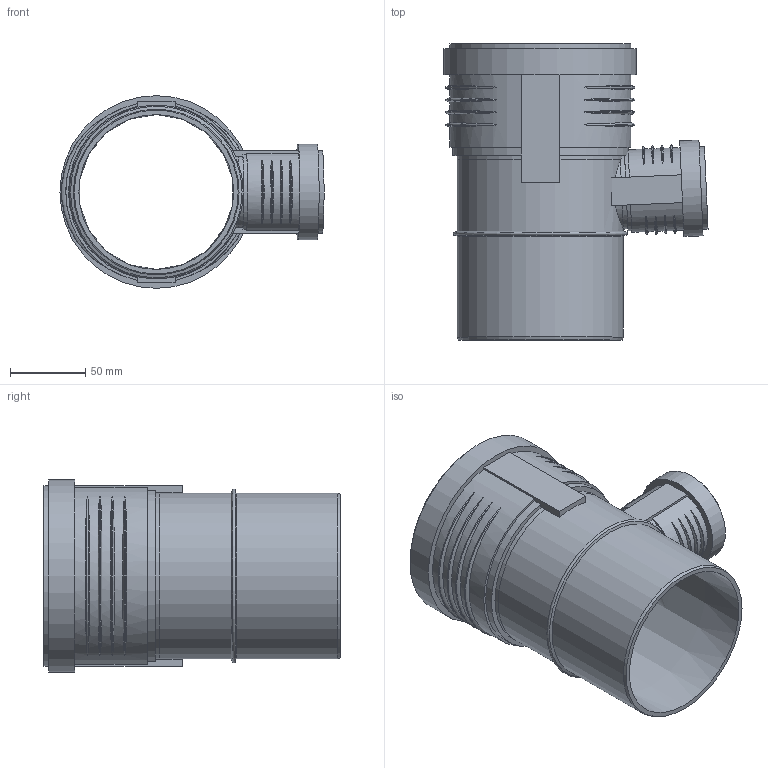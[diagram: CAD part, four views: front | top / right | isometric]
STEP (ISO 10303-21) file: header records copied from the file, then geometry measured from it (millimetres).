
FILE_DESCRIPTION(/* description */ (''),/* implementation_level */ '2;1');
FILE_NAME(/* name */ 'Z:\Geberit\Export\NewStep\390548.stp',/* time_stamp */ '2014-04-02T08:14:32+02:00',/* author */ ('ML'),/* organization */ (''),/* preprocessor_version */ 'ST-DEVELOPER v15.2',/* originating_system */ 'Autodesk Inventor 2014',/* authorisation */ '');
FILE_SCHEMA (('AUTOMOTIVE_DESIGN { 1 0 10303 214 3 1 1 }'));
Length unit declared in the file: millimetre
Products named in the file (4): 861360; 861401; 861404; 390548
Bounding box: 175.66 x 197 x 128.1 mm (x, y, z)
Volume: 296907 mm3; surface area: 184566.1 mm2
Topology: 3 solids, 3 shells, 124 faces, 304 edges, 212 vertices
Faces by surface type: torus 50, plane 37, cylinder 30, cone 7
Full cylindrical faces by diameter (mm): 46.15 x2, 50.15 x2, 51 x2, 55 x1, 59.7 x1, 63.7 x1, 103.2 x1, 110.2 x3, 113.3 x2, 120.3 x1, 121.1 x1, 128.1 x1
Entity records: 5047 total; most frequent: CARTESIAN_POINT 2139, ORIENTED_EDGE 534, DIRECTION 528, EDGE_CURVE 267, AXIS2_PLACEMENT_3D 228, VERTEX_POINT 203, EDGE_LOOP 186, STYLED_ITEM 124
